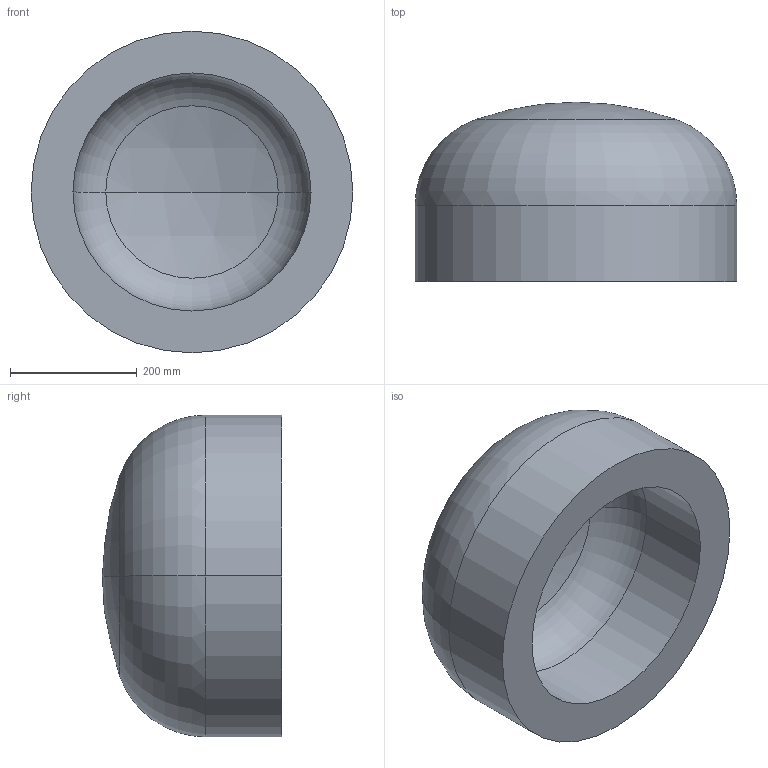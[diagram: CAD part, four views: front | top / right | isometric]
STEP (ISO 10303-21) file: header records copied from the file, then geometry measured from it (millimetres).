
FILE_DESCRIPTION (( 'STEP AP203' ), '1' );
FILE_NAME ('DIN 28013 Korbbogenform_-_Boden DIN 28013 - 508 x 120 - I - s=66.step', '2016-07-01T07:56:27', ( '' ), ( '' ), 'SwSTEP 2.0', 'SolidWorks 2013', '' );
FILE_SCHEMA (( 'CONFIG_CONTROL_DESIGN' ));
Length unit declared in the file: millimetre
Products named in the file (1): DIN 28013 Korbbogenform_-_Boden DIN 28013 - 508 x 120 - I - s=66
Bounding box: 508 x 283 x 508 mm (x, y, z)
Volume: 26811799.5 mm3; surface area: 913248.4 mm2
Topology: 1 solids, 1 shells, 13 faces, 24 edges, 14 vertices
Faces by surface type: torus 4, cylinder 4, sphere 4, plane 1
Entity records: 407 total; most frequent: DIRECTION 72, CARTESIAN_POINT 52, ORIENTED_EDGE 48, AXIS2_PLACEMENT_3D 34, EDGE_CURVE 24, CIRCLE 20, EDGE_LOOP 14, VERTEX_POINT 14
